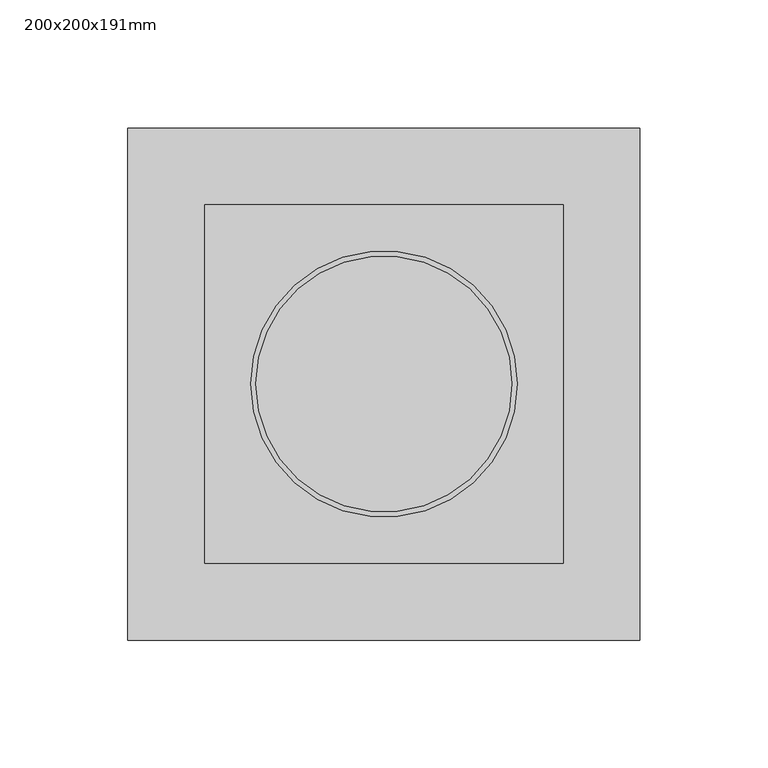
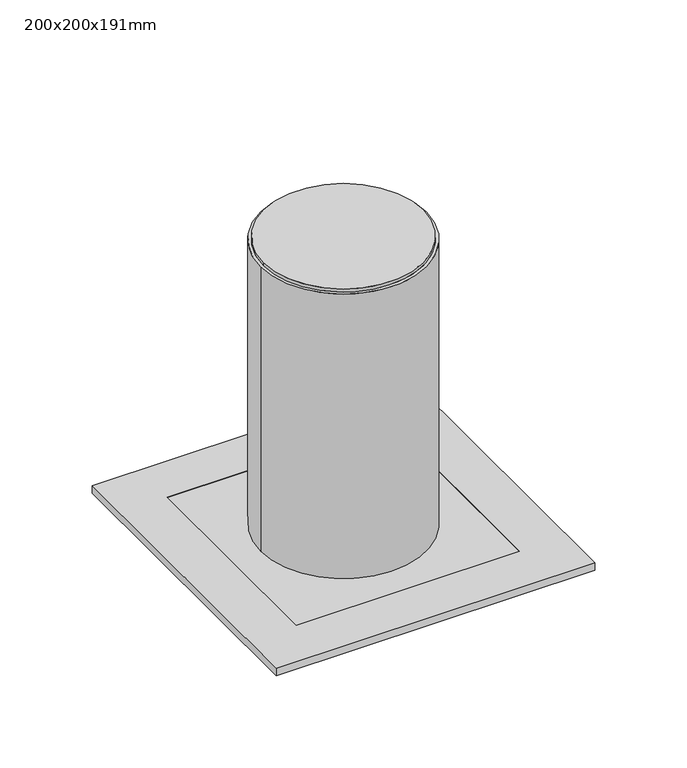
"""IFC4 building model written with IfcOpenShell, lengths in millimetres: light fixture geometry, Iluminação embutida - Simples : 200x200x191mm."""

from ifc_helpers import new_model, si_unit, point, frame, origin, origin_2d, place, context, project, spatial, polyline, circle_curve, trimmed, segment, composite_curve, outline, extrude, source, transform, mapped, element, save
from ifc_brep_helpers import plane_surface, cylinder_surface, revolved_surface, advanced_brep


def light_fixture_200x200x191mm_86722caf(model_context):
    return source(origin(), model_context, "Body", "SolidModel", [
        extrude(outline(composite_curve([segment(trimmed(circle_curve(origin_2d(), 50.0), [point((-50.0, 0.0))], [point((50.0, 0.0))], False, "CARTESIAN"), True, "CONTINUOUS"), segment(trimmed(circle_curve(origin_2d(), 50.0), [point((50.0, 0.0))], [point((-50.0, 0.0))], False, "CARTESIAN"), True, "CONTINUOUS")], self_intersect=False)), frame((0.0, 0.0, 2435.9), z_axis=(0.0, 0.0, 1.0), x_axis=(1.0, 0.0, 0.0)), (0.0, 0.0, 1.0), 2.5),
        extrude(outline(polyline([(100.0, 100.0), (100.0, -100.0), (-100.0, -100.0), (-100.0, 100.0), (100.0, 100.0)]), holes=[polyline([(70.0, 70.0), (-70.0, 70.0), (-70.0, -70.0), (70.0, -70.0), (70.0, 70.0)])]), frame((0.0, 0.0, 2433.4), z_axis=(0.0, 0.0, 1.0), x_axis=(1.0, 0.0, 0.0)), (0.0, 0.0, 1.0), 5.0),
        extrude(outline(polyline([(70.0, 70.0), (70.0, -70.0), (-70.0, -70.0), (-70.0, 70.0), (70.0, 70.0)]), holes=[composite_curve([segment(trimmed(circle_curve(origin_2d(), 50.0), [point((-50.0, 0.0))], [point((50.0, 0.0))], True, "CARTESIAN"), True, "CONTINUOUS"), segment(trimmed(circle_curve(origin_2d(), 50.0), [point((50.0, 0.0))], [point((-50.0, 0.0))], True, "CARTESIAN"), True, "CONTINUOUS")], self_intersect=False)]), frame((0.0, 0.0, 2435.9), z_axis=(0.0, 0.0, 1.0), x_axis=(1.0, 0.0, 0.0)), (0.0, 0.0, 1.0), 2.5),
        advanced_brep(
        [(-50.0, 0.0, 2629.4), (50.0, 0.0, 2629.4), (50.0, 0.0, 2627.4), (-50.0, 0.0, 2627.4), (-50.0, 0.0, 2627.4), (50.0, 0.0, 2627.4), (-52.0, 0.0, 2627.4), (52.0, 0.0, 2627.4), (-52.0, 0.0, 2438.4), (52.0, 0.0, 2438.4), (-50.0, 0.0, 2438.4), (50.0, 0.0, 2438.4)],
        [
            (0, 1, circle_curve(frame((0.0, 0.0, 2629.4), z_axis=(0.0, 0.0, 1.0), x_axis=(1.0, 0.0, 0.0)), 50.0)),
            (1, 0, circle_curve(frame((0.0, 0.0, 2629.4), z_axis=(0.0, 0.0, 1.0), x_axis=(1.0, 0.0, 0.0)), 50.0)),
            (2, 3, circle_curve(frame((0.0, 0.0, 2627.4), z_axis=(0.0, 0.0, -1.0), x_axis=(1.0, 0.0, 0.0)), 50.0)),
            (3, 2, circle_curve(frame((0.0, 0.0, 2627.4), z_axis=(0.0, 0.0, -1.0), x_axis=(1.0, 0.0, 0.0)), 50.0)),
            (0, 4),
            (4, 5, circle_curve(frame((0.0, 0.0, 2627.4), z_axis=(0.0, 0.0, 1.0), x_axis=(1.0, 0.0, 0.0)), 50.0)),
            (5, 1),
            (5, 4, circle_curve(frame((0.0, 0.0, 2627.4), z_axis=(0.0, 0.0, 1.0), x_axis=(1.0, 0.0, 0.0)), 50.0)),
            (6, 7, circle_curve(frame((0.0, 0.0, 2627.4), z_axis=(0.0, 0.0, 1.0), x_axis=(1.0, 0.0, 0.0)), 52.0)),
            (7, 6, circle_curve(frame((0.0, 0.0, 2627.4), z_axis=(0.0, 0.0, 1.0), x_axis=(1.0, 0.0, 0.0)), 52.0)),
            (8, 9, circle_curve(frame((0.0, 0.0, 2438.4), z_axis=(0.0, 0.0, -1.0), x_axis=(1.0, 0.0, 0.0)), 52.0)),
            (9, 8, circle_curve(frame((0.0, 0.0, 2438.4), z_axis=(0.0, 0.0, -1.0), x_axis=(1.0, 0.0, 0.0)), 52.0)),
            (10, 11, circle_curve(frame((0.0, 0.0, 2438.4), z_axis=(0.0, 0.0, 1.0), x_axis=(1.0, 0.0, 0.0)), 50.0)),
            (11, 10, circle_curve(frame((0.0, 0.0, 2438.4), z_axis=(0.0, 0.0, 1.0), x_axis=(1.0, 0.0, 0.0)), 50.0)),
            (10, 3),
            (2, 11),
            (7, 9),
            (8, 6),
        ],
        [
            plane_surface(frame((50.0, 0.0, 2629.4), z_axis=(0.0, 0.0, 1.0), x_axis=(0.0, 1.0, 0.0))),
            plane_surface(frame((50.0, 0.0, 2627.4), z_axis=(0.0, 0.0, -1.0), x_axis=(0.0, -1.0, 0.0))),
            cylinder_surface(frame((0.0, 0.0, 2627.4), z_axis=(0.0, 0.0, 1.0), x_axis=(1.0, 0.0, 0.0)), 50.0),
            plane_surface(frame((50.0, 0.0, 2627.4), z_axis=(0.0, 0.0, 1.0), x_axis=(0.0, -1.0, 0.0))),
            plane_surface(frame((50.0, 0.0, 2438.4), z_axis=(0.0, 0.0, -1.0), x_axis=(0.0, 1.0, 0.0))),
            revolved_surface(polyline([(50.0, 0.0, 2438.4), (50.0, 0.0, 2627.4)]), (0.0, 0.0, 2438.4), (0.0, 0.0, -1.0)),
            cylinder_surface(frame((0.0, 0.0, 2438.4), z_axis=(0.0, 0.0, 1.0), x_axis=(1.0, 0.0, 0.0)), 52.0),
        ],
        [
            (0, [[1, 2]]),
            (1, [[3, 4]]),
            (2, [[-1, 5, 6, 7]]),
            (2, [[-2, -7, 8, -5]]),
            (3, [[9, 10], [-6, -8]]),
            (4, [[11, 12], [13, 14]]),
            (5, [[-13, 15, -3, 16]]),
            (5, [[-14, -16, -4, -15]]),
            (6, [[-10, 17, -11, 18]]),
            (6, [[-9, -18, -12, -17]]),
        ],
    ),
    ])


if __name__ == "__main__":
    model = new_model("IFC4")
    model_context = context("Model", 3, world=origin())
    ifc_project = project(units=[si_unit("LENGTHUNIT", "METRE", prefix="MILLI")], contexts=[model_context])
    site = spatial("IfcSite", under=ifc_project)
    building = spatial("IfcBuilding", under=site)
    placement = place(None, origin())
    light_fixture_200x200x191mm_shape = light_fixture_200x200x191mm_86722caf(model_context)
    element("IfcLightFixture", 1, ObjectType="Iluminação embutida - Simples : 200x200x191mm", at=placement, inside=building, context=model_context, shape_type="MappedRepresentation", body=[
        mapped(light_fixture_200x200x191mm_shape, transform((0.0, 0.0, 0.0), x_axis=(1.0, 0.0, 0.0), y_axis=(0.0, 1.0, 0.0), z_axis=(0.0, 0.0, 1.0))),
    ])
    save(model, "model.ifc")
